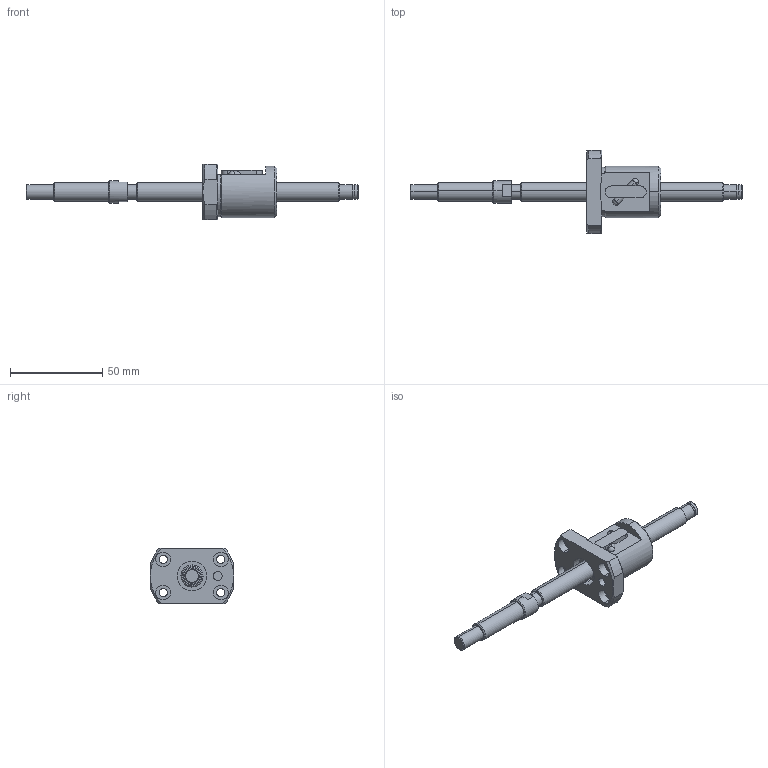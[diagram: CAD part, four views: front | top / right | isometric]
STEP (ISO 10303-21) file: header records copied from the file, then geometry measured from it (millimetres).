
FILE_DESCRIPTION (( 'STEP AP203' ), '1' );
FILE_NAME ('TS1010 assy_21060716.STEP', '2016-07-16T04:45:55', ( 'user' ), ( 'Hewlett-Packard Company' ), 'SwSTEP 2.0', 'SolidWorks 2014', '' );
FILE_SCHEMA (( 'CONFIG_CONTROL_DESIGN' ));
Length unit declared in the file: millimetre
Products named in the file (3): TS1010 screw; TS1010 nut; TS1010 assy_21060716
Assembly tree (2 placements, depth 2):
  TS1010 assy_21060716
    TS1010 screw
    TS1010 nut
Bounding box: 180 x 45 x 30 mm (x, y, z)
Volume: 36343.6 mm3; surface area: 14339.8 mm2
Topology: 2 solids, 2 shells, 118 faces, 291 edges, 187 vertices
Faces by surface type: cylinder 55, plane 34, cone 26, sphere 3
Entity records: 3900 total; most frequent: CARTESIAN_POINT 725, DIRECTION 653, ORIENTED_EDGE 574, EDGE_CURVE 287, AXIS2_PLACEMENT_3D 273, VERTEX_POINT 185, CIRCLE 150, EDGE_LOOP 140
